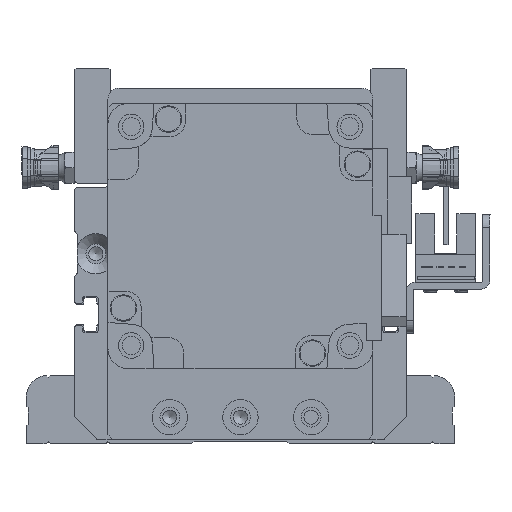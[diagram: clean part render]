
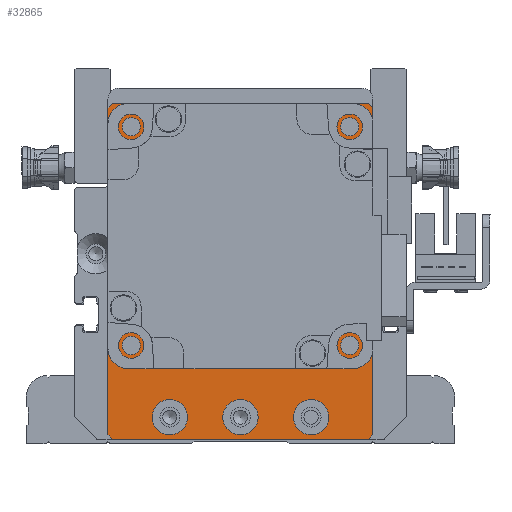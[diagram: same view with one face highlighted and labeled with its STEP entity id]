
A CAD part, front view. The second image highlights one B-rep face of the part: STEP entity #32865.
In plain terms, the highlighted planar face has unit normal (0, -1, 0) as drawn and (0, 0, 1) by its records, which use the part's own axes.
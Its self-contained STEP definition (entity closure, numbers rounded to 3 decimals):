
#1196=FACE_BOUND('',#6250,.T.);
#1197=FACE_BOUND('',#6251,.T.);
#1198=FACE_BOUND('',#6252,.T.);
#1199=FACE_BOUND('',#6253,.T.);
#1200=FACE_BOUND('',#6254,.T.);
#1201=FACE_BOUND('',#6255,.T.);
#1202=FACE_BOUND('',#6256,.T.);
#1203=FACE_BOUND('',#6257,.T.);
#2054=PLANE('',#36666);
#4191=FACE_OUTER_BOUND('',#6249,.T.);
#6249=EDGE_LOOP('',(#28867,#28868,#28869,#28870,#28871,#28872,#28873,#28874));
#6250=EDGE_LOOP('',(#28875));
#6251=EDGE_LOOP('',(#28876));
#6252=EDGE_LOOP('',(#28877));
#6253=EDGE_LOOP('',(#28878));
#6254=EDGE_LOOP('',(#28879));
#6255=EDGE_LOOP('',(#28880));
#6256=EDGE_LOOP('',(#28881));
#6257=EDGE_LOOP('',(#28882));
#8759=LINE('',#56476,#11385);
#8761=LINE('',#56480,#11387);
#8764=LINE('',#56486,#11390);
#8765=LINE('',#56488,#11391);
#8766=LINE('',#56490,#11392);
#8767=LINE('',#56492,#11393);
#8768=LINE('',#56494,#11394);
#8769=LINE('',#56495,#11395);
#11385=VECTOR('',#44904,10.);
#11387=VECTOR('',#44908,10.);
#11390=VECTOR('',#44913,10.);
#11391=VECTOR('',#44914,10.);
#11392=VECTOR('',#44915,10.);
#11393=VECTOR('',#44916,10.);
#11394=VECTOR('',#44917,10.);
#11395=VECTOR('',#44918,10.);
#13414=CIRCLE('',#36667,25.);
#13415=CIRCLE('',#36668,2.067);
#13416=CIRCLE('',#36669,2.067);
#13417=CIRCLE('',#36670,2.067);
#13418=CIRCLE('',#36671,2.067);
#13419=CIRCLE('',#36672,4.);
#13420=CIRCLE('',#36673,4.);
#13421=CIRCLE('',#36674,4.);
#16273=VERTEX_POINT('',#56473);
#16274=VERTEX_POINT('',#56475);
#16275=VERTEX_POINT('',#56479);
#16277=VERTEX_POINT('',#56485);
#16278=VERTEX_POINT('',#56487);
#16279=VERTEX_POINT('',#56489);
#16280=VERTEX_POINT('',#56491);
#16281=VERTEX_POINT('',#56493);
#16282=VERTEX_POINT('',#56496);
#16283=VERTEX_POINT('',#56498);
#16284=VERTEX_POINT('',#56500);
#16285=VERTEX_POINT('',#56502);
#16286=VERTEX_POINT('',#56504);
#16287=VERTEX_POINT('',#56506);
#16288=VERTEX_POINT('',#56508);
#16289=VERTEX_POINT('',#56510);
#20610=EDGE_CURVE('',#16274,#16273,#8759,.T.);
#20612=EDGE_CURVE('',#16274,#16275,#8761,.T.);
#20615=EDGE_CURVE('',#16277,#16273,#8764,.T.);
#20616=EDGE_CURVE('',#16277,#16278,#8765,.T.);
#20617=EDGE_CURVE('',#16279,#16278,#8766,.T.);
#20618=EDGE_CURVE('',#16279,#16280,#8767,.T.);
#20619=EDGE_CURVE('',#16281,#16280,#8768,.T.);
#20620=EDGE_CURVE('',#16281,#16275,#8769,.T.);
#20621=EDGE_CURVE('',#16282,#16282,#13414,.T.);
#20622=EDGE_CURVE('',#16283,#16283,#13415,.T.);
#20623=EDGE_CURVE('',#16284,#16284,#13416,.T.);
#20624=EDGE_CURVE('',#16285,#16285,#13417,.T.);
#20625=EDGE_CURVE('',#16286,#16286,#13418,.T.);
#20626=EDGE_CURVE('',#16287,#16287,#13419,.T.);
#20627=EDGE_CURVE('',#16288,#16288,#13420,.T.);
#20628=EDGE_CURVE('',#16289,#16289,#13421,.T.);
#28867=ORIENTED_EDGE('',*,*,#20612,.F.);
#28868=ORIENTED_EDGE('',*,*,#20610,.T.);
#28869=ORIENTED_EDGE('',*,*,#20615,.F.);
#28870=ORIENTED_EDGE('',*,*,#20616,.T.);
#28871=ORIENTED_EDGE('',*,*,#20617,.F.);
#28872=ORIENTED_EDGE('',*,*,#20618,.T.);
#28873=ORIENTED_EDGE('',*,*,#20619,.F.);
#28874=ORIENTED_EDGE('',*,*,#20620,.T.);
#28875=ORIENTED_EDGE('',*,*,#20621,.T.);
#28876=ORIENTED_EDGE('',*,*,#20622,.T.);
#28877=ORIENTED_EDGE('',*,*,#20623,.T.);
#28878=ORIENTED_EDGE('',*,*,#20624,.T.);
#28879=ORIENTED_EDGE('',*,*,#20625,.T.);
#28880=ORIENTED_EDGE('',*,*,#20626,.T.);
#28881=ORIENTED_EDGE('',*,*,#20627,.T.);
#28882=ORIENTED_EDGE('',*,*,#20628,.T.);
#32865=ADVANCED_FACE('',(#4191,#1196,#1197,#1198,#1199,#1200,#1201,#1202,
#1203),#2054,.T.);
#36666=AXIS2_PLACEMENT_3D('',#56484,#44911,#44912);
#36667=AXIS2_PLACEMENT_3D('',#56497,#44919,#44920);
#36668=AXIS2_PLACEMENT_3D('',#56499,#44921,#44922);
#36669=AXIS2_PLACEMENT_3D('',#56501,#44923,#44924);
#36670=AXIS2_PLACEMENT_3D('',#56503,#44925,#44926);
#36671=AXIS2_PLACEMENT_3D('',#56505,#44927,#44928);
#36672=AXIS2_PLACEMENT_3D('',#56507,#44929,#44930);
#36673=AXIS2_PLACEMENT_3D('',#56509,#44931,#44932);
#36674=AXIS2_PLACEMENT_3D('',#56511,#44933,#44934);
#44904=DIRECTION('',(1.,0.,0.));
#44908=DIRECTION('',(-0.707,0.707,0.));
#44911=DIRECTION('center_axis',(0.,0.,1.));
#44912=DIRECTION('ref_axis',(1.,0.,0.));
#44913=DIRECTION('',(-0.707,-0.707,0.));
#44914=DIRECTION('',(0.,1.,0.));
#44915=DIRECTION('',(0.707,-0.707,0.));
#44916=DIRECTION('',(-1.,0.,0.));
#44917=DIRECTION('',(0.707,0.707,0.));
#44918=DIRECTION('',(0.,-1.,0.));
#44919=DIRECTION('center_axis',(0.,0.,-1.));
#44920=DIRECTION('ref_axis',(1.,0.,0.));
#44921=DIRECTION('center_axis',(0.,0.,-1.));
#44922=DIRECTION('ref_axis',(1.,0.,0.));
#44923=DIRECTION('center_axis',(0.,0.,-1.));
#44924=DIRECTION('ref_axis',(1.,0.,0.));
#44925=DIRECTION('center_axis',(0.,0.,-1.));
#44926=DIRECTION('ref_axis',(1.,0.,0.));
#44927=DIRECTION('center_axis',(0.,0.,-1.));
#44928=DIRECTION('ref_axis',(1.,0.,0.));
#44929=DIRECTION('center_axis',(0.,0.,-1.));
#44930=DIRECTION('ref_axis',(1.,0.,0.));
#44931=DIRECTION('center_axis',(0.,0.,-1.));
#44932=DIRECTION('ref_axis',(1.,0.,0.));
#44933=DIRECTION('center_axis',(0.,0.,-1.));
#44934=DIRECTION('ref_axis',(1.,0.,0.));
#56473=CARTESIAN_POINT('',(29.,-38.,59.));
#56475=CARTESIAN_POINT('',(-29.,-38.,59.));
#56476=CARTESIAN_POINT('',(-30.,-38.,59.));
#56479=CARTESIAN_POINT('',(-30.,-37.,59.));
#56480=CARTESIAN_POINT('',(-31.5,-35.5,59.));
#56484=CARTESIAN_POINT('Origin',(0.,0.,
59.));
#56485=CARTESIAN_POINT('',(30.,-37.,59.));
#56486=CARTESIAN_POINT('',(31.5,-35.5,59.));
#56487=CARTESIAN_POINT('',(30.,37.,59.));
#56488=CARTESIAN_POINT('',(30.,-38.,59.));
#56489=CARTESIAN_POINT('',(29.,38.,59.));
#56490=CARTESIAN_POINT('',(31.5,35.5,59.));
#56491=CARTESIAN_POINT('',(-29.,38.,59.));
#56492=CARTESIAN_POINT('',(30.,38.,59.));
#56493=CARTESIAN_POINT('',(-30.,37.,59.));
#56494=CARTESIAN_POINT('',(-31.5,35.5,59.));
#56495=CARTESIAN_POINT('',(-30.,38.,59.));
#56496=CARTESIAN_POINT('',(-25.,8.,59.));
#56497=CARTESIAN_POINT('Origin',(0.,8.,59.));
#56498=CARTESIAN_POINT('',(22.682,-16.749,59.));
#56499=CARTESIAN_POINT('Origin',(24.749,-16.749,59.));
#56500=CARTESIAN_POINT('',(22.682,32.749,59.));
#56501=CARTESIAN_POINT('Origin',(24.749,32.749,59.));
#56502=CARTESIAN_POINT('',(-26.816,32.749,59.));
#56503=CARTESIAN_POINT('Origin',(-24.749,32.749,59.));
#56504=CARTESIAN_POINT('',(-26.816,-16.749,59.));
#56505=CARTESIAN_POINT('Origin',(-24.749,-16.749,59.));
#56506=CARTESIAN_POINT('',(12.,-33.,59.));
#56507=CARTESIAN_POINT('Origin',(16.,-33.,59.));
#56508=CARTESIAN_POINT('',(-4.,-33.,59.));
#56509=CARTESIAN_POINT('Origin',(0.,-33.,59.));
#56510=CARTESIAN_POINT('',(-20.,-33.,59.));
#56511=CARTESIAN_POINT('Origin',(-16.,-33.,59.));
